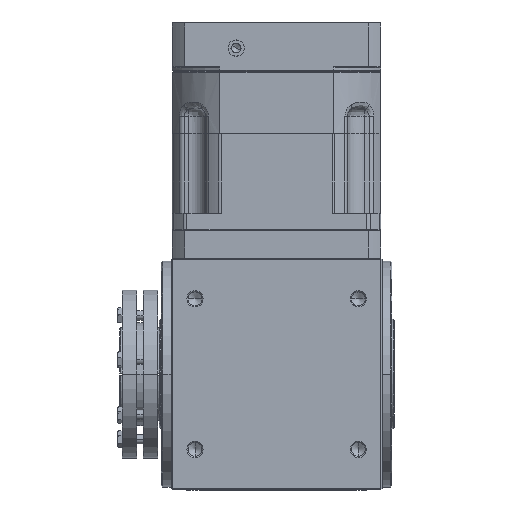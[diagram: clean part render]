
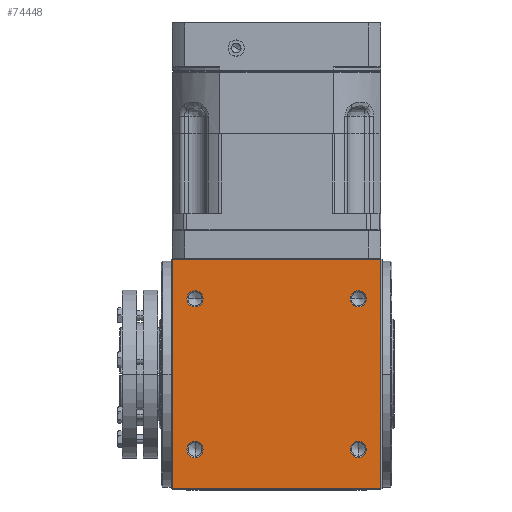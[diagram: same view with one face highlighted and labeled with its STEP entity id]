
A CAD part, front view. The second image highlights one B-rep face of the part: STEP entity #74448.
In plain terms, the highlighted planar face has unit normal (0, -1, 0) as drawn and (0, 0, -1) by its records, which use the part's own axes.
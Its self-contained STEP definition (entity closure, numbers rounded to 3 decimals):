
#560 = DIRECTION ( 'NONE',  ( 0., 0., -1. ) ) ;
#874 = CIRCLE ( 'NONE', #20721, 7. ) ;
#2185 = DIRECTION ( 'NONE',  ( 0., 1., 0. ) ) ;
#3530 = EDGE_CURVE ( 'NONE', #47393, #34130, #97453, .T. ) ;
#3759 = VERTEX_POINT ( 'NONE', #32971 ) ;
#3892 = CARTESIAN_POINT ( 'NONE',  ( -90., 99., -100. ) ) ;
#4381 = ORIENTED_EDGE ( 'NONE', *, *, #45632, .F. ) ;
#4578 = EDGE_LOOP ( 'NONE', ( #24692, #22664 ) ) ;
#6735 = CARTESIAN_POINT ( 'NONE',  ( 70.5, -58., -100. ) ) ;
#8293 = FACE_OUTER_BOUND ( 'NONE', #31127, .T. ) ;
#10047 = CARTESIAN_POINT ( 'NONE',  ( 90., -99., -100. ) ) ;
#14772 = CARTESIAN_POINT ( 'NONE',  ( -90., -99., -100. ) ) ;
#15361 = DIRECTION ( 'NONE',  ( 0., 0., -1. ) ) ;
#18682 = ORIENTED_EDGE ( 'NONE', *, *, #37068, .F. ) ;
#20646 = CARTESIAN_POINT ( 'NONE',  ( -70.5, -72., -100. ) ) ;
#20721 = AXIS2_PLACEMENT_3D ( 'NONE', #36618, #96906, #45307 ) ;
#22664 = ORIENTED_EDGE ( 'NONE', *, *, #82217, .F. ) ;
#23058 = CARTESIAN_POINT ( 'NONE',  ( -90., 99., -100. ) ) ;
#23097 = DIRECTION ( 'NONE',  ( 0., 0., 1. ) ) ;
#23833 = CARTESIAN_POINT ( 'NONE',  ( -90., 99., -100. ) ) ;
#24692 = ORIENTED_EDGE ( 'NONE', *, *, #86122, .F. ) ;
#26089 = VERTEX_POINT ( 'NONE', #23058 ) ;
#27779 = CARTESIAN_POINT ( 'NONE',  ( -70.5, -58., -100. ) ) ;
#28650 = FACE_BOUND ( 'NONE', #29060, .T. ) ;
#29060 = EDGE_LOOP ( 'NONE', ( #88145, #18682 ) ) ;
#30665 = AXIS2_PLACEMENT_3D ( 'NONE', #90656, #38960, #99178 ) ;
#31127 = EDGE_LOOP ( 'NONE', ( #40941, #33403, #60035, #49017 ) ) ;
#31976 = VERTEX_POINT ( 'NONE', #59353 ) ;
#32485 = CIRCLE ( 'NONE', #93147, 7. ) ;
#32971 = CARTESIAN_POINT ( 'NONE',  ( -70.5, 72., -100. ) ) ;
#33403 = ORIENTED_EDGE ( 'NONE', *, *, #106753, .F. ) ;
#34130 = VERTEX_POINT ( 'NONE', #10047 ) ;
#34282 = CARTESIAN_POINT ( 'NONE',  ( -70.5, -65., -100. ) ) ;
#35175 = VERTEX_POINT ( 'NONE', #74016 ) ;
#36618 = CARTESIAN_POINT ( 'NONE',  ( 70.5, -65., -100. ) ) ;
#37068 = EDGE_CURVE ( 'NONE', #67308, #50305, #874, .T. ) ;
#37400 = VECTOR ( 'NONE', #40938, 1000. ) ;
#37884 = LINE ( 'NONE', #109654, #83904 ) ;
#38960 = DIRECTION ( 'NONE',  ( 0., 0., -1. ) ) ;
#40938 = DIRECTION ( 'NONE',  ( -1., 0., 0. ) ) ;
#40941 = ORIENTED_EDGE ( 'NONE', *, *, #112063, .F. ) ;
#43012 = DIRECTION ( 'NONE',  ( 0., 1., 0. ) ) ;
#43081 = CARTESIAN_POINT ( 'NONE',  ( -70.5, 65., -100. ) ) ;
#43797 = DIRECTION ( 'NONE',  ( 0., 0., -1. ) ) ;
#45307 = DIRECTION ( 'NONE',  ( 0., 1., 0. ) ) ;
#45632 = EDGE_CURVE ( 'NONE', #96196, #90961, #90882, .T. ) ;
#47393 = VERTEX_POINT ( 'NONE', #14772 ) ;
#49017 = ORIENTED_EDGE ( 'NONE', *, *, #3530, .F. ) ;
#50305 = VERTEX_POINT ( 'NONE', #6735 ) ;
#51744 = DIRECTION ( 'NONE',  ( 0., 1., 0. ) ) ;
#51773 = FACE_BOUND ( 'NONE', #4578, .T. ) ;
#52406 = VERTEX_POINT ( 'NONE', #65944 ) ;
#52720 = CARTESIAN_POINT ( 'NONE',  ( 70.5, -65., -100. ) ) ;
#53962 = CIRCLE ( 'NONE', #76560, 7. ) ;
#54352 = DIRECTION ( 'NONE',  ( 0., 0., -1. ) ) ;
#54512 = FACE_BOUND ( 'NONE', #60394, .T. ) ;
#57301 = PLANE ( 'NONE',  #102067 ) ;
#57933 = AXIS2_PLACEMENT_3D ( 'NONE', #67416, #15361, #76146 ) ;
#58323 = DIRECTION ( 'NONE',  ( 0., 1., 0. ) ) ;
#59353 = CARTESIAN_POINT ( 'NONE',  ( 90., 99., -100. ) ) ;
#60035 = ORIENTED_EDGE ( 'NONE', *, *, #98944, .F. ) ;
#60394 = EDGE_LOOP ( 'NONE', ( #65301, #4381 ) ) ;
#61520 = DIRECTION ( 'NONE',  ( 0., 1., 0. ) ) ;
#62515 = VECTOR ( 'NONE', #64760, 1000. ) ;
#62839 = EDGE_LOOP ( 'NONE', ( #64174, #102481 ) ) ;
#63172 = CIRCLE ( 'NONE', #57933, 7. ) ;
#64174 = ORIENTED_EDGE ( 'NONE', *, *, #90847, .F. ) ;
#64760 = DIRECTION ( 'NONE',  ( 0., -1., 0. ) ) ;
#65301 = ORIENTED_EDGE ( 'NONE', *, *, #93445, .F. ) ;
#65944 = CARTESIAN_POINT ( 'NONE',  ( 70.5, 72., -100. ) ) ;
#66908 = DIRECTION ( 'NONE',  ( 1., 0., 0. ) ) ;
#67308 = VERTEX_POINT ( 'NONE', #78081 ) ;
#67378 = CARTESIAN_POINT ( 'NONE',  ( -90., -99., -100. ) ) ;
#67416 = CARTESIAN_POINT ( 'NONE',  ( -70.5, 65., -100. ) ) ;
#68451 = CIRCLE ( 'NONE', #71106, 7. ) ;
#70711 = CIRCLE ( 'NONE', #87657, 7. ) ;
#71106 = AXIS2_PLACEMENT_3D ( 'NONE', #43081, #103219, #51744 ) ;
#73936 = CARTESIAN_POINT ( 'NONE',  ( -70.5, 58., -100. ) ) ;
#74016 = CARTESIAN_POINT ( 'NONE',  ( 70.5, 58., -100. ) ) ;
#74448 = ADVANCED_FACE ( 'NONE', ( #8293, #54512, #97552, #51773, #28650 ), #57301, .F. ) ;
#75112 = CARTESIAN_POINT ( 'NONE',  ( -90., 99., -100. ) ) ;
#76146 = DIRECTION ( 'NONE',  ( 0., 1., 0. ) ) ;
#76560 = AXIS2_PLACEMENT_3D ( 'NONE', #52720, #560, #61520 ) ;
#77194 = EDGE_CURVE ( 'NONE', #98395, #3759, #63172, .T. ) ;
#78081 = CARTESIAN_POINT ( 'NONE',  ( 70.5, -72., -100. ) ) ;
#82217 = EDGE_CURVE ( 'NONE', #35175, #52406, #32485, .T. ) ;
#82780 = EDGE_CURVE ( 'NONE', #50305, #67308, #53962, .T. ) ;
#83691 = DIRECTION ( 'NONE',  ( 1., 0., 0. ) ) ;
#83904 = VECTOR ( 'NONE', #58323, 1000. ) ;
#84314 = AXIS2_PLACEMENT_3D ( 'NONE', #34282, #94655, #43012 ) ;
#85460 = LINE ( 'NONE', #3892, #62515 ) ;
#86122 = EDGE_CURVE ( 'NONE', #52406, #35175, #70711, .T. ) ;
#87657 = AXIS2_PLACEMENT_3D ( 'NONE', #105742, #54352, #2185 ) ;
#88145 = ORIENTED_EDGE ( 'NONE', *, *, #82780, .F. ) ;
#90656 = CARTESIAN_POINT ( 'NONE',  ( -70.5, -65., -100. ) ) ;
#90847 = EDGE_CURVE ( 'NONE', #3759, #98395, #68451, .T. ) ;
#90882 = CIRCLE ( 'NONE', #84314, 7. ) ;
#90961 = VERTEX_POINT ( 'NONE', #27779 ) ;
#93147 = AXIS2_PLACEMENT_3D ( 'NONE', #95392, #43797, #103920 ) ;
#93445 = EDGE_CURVE ( 'NONE', #90961, #96196, #100533, .T. ) ;
#94655 = DIRECTION ( 'NONE',  ( 0., 0., -1. ) ) ;
#95392 = CARTESIAN_POINT ( 'NONE',  ( 70.5, 65., -100. ) ) ;
#96196 = VERTEX_POINT ( 'NONE', #20646 ) ;
#96906 = DIRECTION ( 'NONE',  ( 0., 0., -1. ) ) ;
#97453 = LINE ( 'NONE', #67378, #97551 ) ;
#97551 = VECTOR ( 'NONE', #66908, 1000. ) ;
#97552 = FACE_BOUND ( 'NONE', #62839, .T. ) ;
#98395 = VERTEX_POINT ( 'NONE', #73936 ) ;
#98944 = EDGE_CURVE ( 'NONE', #34130, #31976, #37884, .T. ) ;
#99178 = DIRECTION ( 'NONE',  ( 0., 1., 0. ) ) ;
#100533 = CIRCLE ( 'NONE', #30665, 7. ) ;
#102067 = AXIS2_PLACEMENT_3D ( 'NONE', #75112, #23097, #83691 ) ;
#102481 = ORIENTED_EDGE ( 'NONE', *, *, #77194, .F. ) ;
#103219 = DIRECTION ( 'NONE',  ( 0., 0., -1. ) ) ;
#103384 = LINE ( 'NONE', #23833, #37400 ) ;
#103920 = DIRECTION ( 'NONE',  ( 0., 1., 0. ) ) ;
#105742 = CARTESIAN_POINT ( 'NONE',  ( 70.5, 65., -100. ) ) ;
#106753 = EDGE_CURVE ( 'NONE', #31976, #26089, #103384, .T. ) ;
#109654 = CARTESIAN_POINT ( 'NONE',  ( 90., 99., -100. ) ) ;
#112063 = EDGE_CURVE ( 'NONE', #26089, #47393, #85460, .T. ) ;
